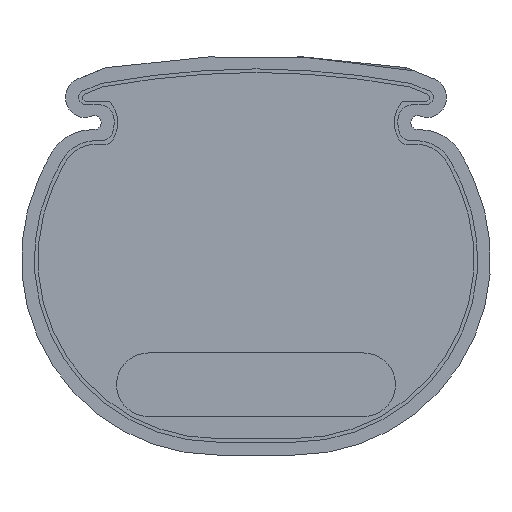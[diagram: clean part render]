
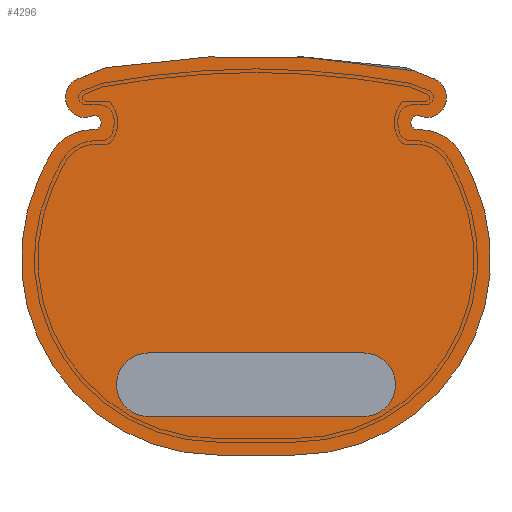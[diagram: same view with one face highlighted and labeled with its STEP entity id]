
A CAD part, left-side view. The second image highlights one B-rep face of the part: STEP entity #4296.
In plain terms, the highlighted planar face has unit normal (-1, 0, 0).
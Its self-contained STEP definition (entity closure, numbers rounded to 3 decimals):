
#155=FACE_BOUND('',#604,.T.);
#205=PLANE('',#4712);
#378=FACE_OUTER_BOUND('',#603,.T.);
#603=EDGE_LOOP('',(#3585,#3586,#3587,#3588,#3589,#3590,#3591,#3592,#3593,
#3594,#3595,#3596,#3597,#3598,#3599,#3600,#3601,#3602));
#604=EDGE_LOOP('',(#3603,#3604,#3605,#3606));
#846=CIRCLE('',#4602,4.422);
#884=CIRCLE('',#4650,4.422);
#885=CIRCLE('',#4654,51.838);
#886=CIRCLE('',#4656,27.3);
#887=CIRCLE('',#4659,27.3);
#888=CIRCLE('',#4661,51.838);
#889=CIRCLE('',#4663,7.3);
#890=CIRCLE('',#4665,2.8);
#902=CIRCLE('',#4694,1.);
#903=CIRCLE('',#4696,2.8);
#904=CIRCLE('',#4698,7.3);
#905=CIRCLE('',#4700,2.46);
#906=CIRCLE('',#4702,6.34);
#907=CIRCLE('',#4704,1.);
#908=CIRCLE('',#4706,2.46);
#909=CIRCLE('',#4708,6.34);
#910=CIRCLE('',#4710,125.078);
#1126=LINE('',#7366,#1407);
#1155=LINE('',#7503,#1436);
#1156=LINE('',#7510,#1437);
#1161=LINE('',#7524,#1442);
#1168=LINE('',#7549,#1449);
#1407=VECTOR('',#5408,10.);
#1436=VECTOR('',#5541,10.);
#1437=VECTOR('',#5544,10.);
#1442=VECTOR('',#5559,10.);
#1449=VECTOR('',#5584,10.);
#1819=VERTEX_POINT('',#7363);
#1820=VERTEX_POINT('',#7365);
#1822=VERTEX_POINT('',#7371);
#1876=VERTEX_POINT('',#7498);
#1877=VERTEX_POINT('',#7505);
#1878=VERTEX_POINT('',#7509);
#1879=VERTEX_POINT('',#7513);
#1880=VERTEX_POINT('',#7515);
#1881=VERTEX_POINT('',#7519);
#1882=VERTEX_POINT('',#7523);
#1883=VERTEX_POINT('',#7527);
#1884=VERTEX_POINT('',#7531);
#1885=VERTEX_POINT('',#7535);
#1886=VERTEX_POINT('',#7539);
#1887=VERTEX_POINT('',#7541);
#1888=VERTEX_POINT('',#7545);
#1901=VERTEX_POINT('',#7605);
#1902=VERTEX_POINT('',#7606);
#1903=VERTEX_POINT('',#7611);
#1904=VERTEX_POINT('',#7615);
#1905=VERTEX_POINT('',#7623);
#1906=VERTEX_POINT('',#7624);
#2375=EDGE_CURVE('',#1820,#1819,#1126,.T.);
#2379=EDGE_CURVE('',#1819,#1822,#846,.T.);
#2441=EDGE_CURVE('',#1876,#1820,#884,.T.);
#2444=EDGE_CURVE('',#1822,#1876,#1155,.T.);
#2446=EDGE_CURVE('',#1878,#1877,#1156,.T.);
#2449=EDGE_CURVE('',#1880,#1879,#885,.T.);
#2451=EDGE_CURVE('',#1881,#1880,#886,.T.);
#2453=EDGE_CURVE('',#1882,#1881,#1161,.T.);
#2455=EDGE_CURVE('',#1883,#1882,#887,.T.);
#2457=EDGE_CURVE('',#1884,#1883,#888,.T.);
#2460=EDGE_CURVE('',#1885,#1884,#889,.T.);
#2462=EDGE_CURVE('',#1887,#1886,#890,.T.);
#2465=EDGE_CURVE('',#1888,#1887,#1168,.T.);
#2493=EDGE_CURVE('',#1901,#1902,#902,.T.);
#2497=EDGE_CURVE('',#1903,#1878,#903,.T.);
#2499=EDGE_CURVE('',#1879,#1904,#904,.T.);
#2500=EDGE_CURVE('',#1902,#1903,#905,.T.);
#2501=EDGE_CURVE('',#1904,#1901,#906,.T.);
#2502=EDGE_CURVE('',#1905,#1906,#907,.T.);
#2505=EDGE_CURVE('',#1886,#1905,#908,.T.);
#2506=EDGE_CURVE('',#1906,#1885,#909,.T.);
#2507=EDGE_CURVE('',#1877,#1888,#910,.T.);
#3585=ORIENTED_EDGE('',*,*,#2507,.T.);
#3586=ORIENTED_EDGE('',*,*,#2465,.T.);
#3587=ORIENTED_EDGE('',*,*,#2462,.T.);
#3588=ORIENTED_EDGE('',*,*,#2505,.T.);
#3589=ORIENTED_EDGE('',*,*,#2502,.T.);
#3590=ORIENTED_EDGE('',*,*,#2506,.T.);
#3591=ORIENTED_EDGE('',*,*,#2460,.T.);
#3592=ORIENTED_EDGE('',*,*,#2457,.T.);
#3593=ORIENTED_EDGE('',*,*,#2455,.T.);
#3594=ORIENTED_EDGE('',*,*,#2453,.T.);
#3595=ORIENTED_EDGE('',*,*,#2451,.T.);
#3596=ORIENTED_EDGE('',*,*,#2449,.T.);
#3597=ORIENTED_EDGE('',*,*,#2499,.T.);
#3598=ORIENTED_EDGE('',*,*,#2501,.T.);
#3599=ORIENTED_EDGE('',*,*,#2493,.T.);
#3600=ORIENTED_EDGE('',*,*,#2500,.T.);
#3601=ORIENTED_EDGE('',*,*,#2497,.T.);
#3602=ORIENTED_EDGE('',*,*,#2446,.T.);
#3603=ORIENTED_EDGE('',*,*,#2444,.T.);
#3604=ORIENTED_EDGE('',*,*,#2441,.T.);
#3605=ORIENTED_EDGE('',*,*,#2375,.T.);
#3606=ORIENTED_EDGE('',*,*,#2379,.T.);
#4296=ADVANCED_FACE('',(#378,#155),#205,.F.);
#4602=AXIS2_PLACEMENT_3D('',#7373,#5415,#5416);
#4650=AXIS2_PLACEMENT_3D('',#7499,#5535,#5536);
#4654=AXIS2_PLACEMENT_3D('',#7516,#5549,#5550);
#4656=AXIS2_PLACEMENT_3D('',#7520,#5554,#5555);
#4659=AXIS2_PLACEMENT_3D('',#7528,#5563,#5564);
#4661=AXIS2_PLACEMENT_3D('',#7532,#5568,#5569);
#4663=AXIS2_PLACEMENT_3D('',#7537,#5574,#5575);
#4665=AXIS2_PLACEMENT_3D('',#7542,#5579,#5580);
#4694=AXIS2_PLACEMENT_3D('',#7607,#5655,#5656);
#4696=AXIS2_PLACEMENT_3D('',#7613,#5662,#5663);
#4698=AXIS2_PLACEMENT_3D('',#7617,#5667,#5668);
#4700=AXIS2_PLACEMENT_3D('',#7619,#5671,#5672);
#4702=AXIS2_PLACEMENT_3D('',#7621,#5675,#5676);
#4704=AXIS2_PLACEMENT_3D('',#7625,#5679,#5680);
#4706=AXIS2_PLACEMENT_3D('',#7629,#5685,#5686);
#4708=AXIS2_PLACEMENT_3D('',#7631,#5689,#5690);
#4710=AXIS2_PLACEMENT_3D('',#7633,#5693,#5694);
#4712=AXIS2_PLACEMENT_3D('',#7635,#5697,#5698);
#5408=DIRECTION('',(0.,-1.,0.));
#5415=DIRECTION('center_axis',(1.,0.,0.));
#5416=DIRECTION('ref_axis',(0.,0.,1.));
#5535=DIRECTION('center_axis',(1.,0.,0.));
#5536=DIRECTION('ref_axis',(0.,0.,-1.));
#5541=DIRECTION('',(0.,1.,0.));
#5544=DIRECTION('',(0.,0.927,0.375));
#5549=DIRECTION('center_axis',(-1.,0.,0.));
#5550=DIRECTION('ref_axis',(0.,-0.913,0.408));
#5554=DIRECTION('center_axis',(-1.,0.,0.));
#5555=DIRECTION('ref_axis',(0.,0.,-1.));
#5559=DIRECTION('',(0.,-1.,0.));
#5563=DIRECTION('center_axis',(-1.,0.,0.));
#5564=DIRECTION('ref_axis',(0.,0.913,0.408));
#5568=DIRECTION('center_axis',(-1.,0.,0.));
#5569=DIRECTION('ref_axis',(0.,0.882,0.472));
#5574=DIRECTION('center_axis',(-1.,0.,0.));
#5575=DIRECTION('ref_axis',(0.,0.,1.));
#5579=DIRECTION('center_axis',(-1.,0.,0.));
#5580=DIRECTION('ref_axis',(0.,0.375,0.927));
#5584=DIRECTION('',(0.,0.927,-0.375));
#5655=DIRECTION('center_axis',(1.,0.,0.));
#5656=DIRECTION('ref_axis',(0.,-0.052,-0.999));
#5662=DIRECTION('center_axis',(-1.,0.,0.));
#5663=DIRECTION('ref_axis',(0.,0.,-1.));
#5667=DIRECTION('center_axis',(-1.,0.,0.));
#5668=DIRECTION('ref_axis',(0.,-0.882,0.472));
#5671=DIRECTION('center_axis',(-1.,0.,0.));
#5672=DIRECTION('ref_axis',(0.,0.414,0.91));
#5675=DIRECTION('center_axis',(-1.,0.,0.));
#5676=DIRECTION('ref_axis',(0.,-0.052,-0.999));
#5679=DIRECTION('center_axis',(1.,0.,0.));
#5680=DIRECTION('ref_axis',(0.,0.052,-0.999));
#5685=DIRECTION('center_axis',(-1.,0.,0.));
#5686=DIRECTION('ref_axis',(0.,-0.414,0.91));
#5689=DIRECTION('center_axis',(-1.,0.,0.));
#5690=DIRECTION('ref_axis',(0.,0.052,-0.999));
#5693=DIRECTION('center_axis',(-1.,0.,0.));
#5694=DIRECTION('ref_axis',(0.,-0.182,0.983));
#5697=DIRECTION('center_axis',(1.,0.,0.));
#5698=DIRECTION('ref_axis',(0.,0.,-1.));
#7363=CARTESIAN_POINT('',(-624.328,-16.071,-13.578));
#7365=CARTESIAN_POINT('',(-624.328,13.929,-13.578));
#7366=CARTESIAN_POINT('',(-624.328,-8.571,-13.578));
#7371=CARTESIAN_POINT('',(-624.328,-16.071,-22.422));
#7373=CARTESIAN_POINT('Origin',(-624.328,-16.071,-18.));
#7498=CARTESIAN_POINT('',(-624.328,13.929,-22.422));
#7499=CARTESIAN_POINT('Origin',(-624.328,13.929,-18.));
#7503=CARTESIAN_POINT('',(-624.328,6.429,-22.422));
#7505=CARTESIAN_POINT('',(-624.328,-23.129,25.706));
#7509=CARTESIAN_POINT('',(-624.328,-25.87,24.599));
#7510=CARTESIAN_POINT('',(-624.328,-25.87,24.599));
#7513=CARTESIAN_POINT('',(-624.328,-29.755,13.945));
#7515=CARTESIAN_POINT('',(-624.328,-31.379,10.629));
#7516=CARTESIAN_POINT('Origin',(-624.328,15.958,-10.499));
#7519=CARTESIAN_POINT('',(-624.328,-6.449,-27.798));
#7520=CARTESIAN_POINT('Origin',(-624.328,-6.449,-0.498));
#7523=CARTESIAN_POINT('',(-624.328,4.307,-27.798));
#7524=CARTESIAN_POINT('',(-624.328,4.307,-27.798));
#7527=CARTESIAN_POINT('',(-624.328,29.237,10.629));
#7528=CARTESIAN_POINT('Origin',(-624.328,4.307,-0.498));
#7531=CARTESIAN_POINT('',(-624.328,27.613,13.945));
#7532=CARTESIAN_POINT('Origin',(-624.328,-18.1,-10.499));
#7535=CARTESIAN_POINT('',(-624.328,26.398,15.603));
#7537=CARTESIAN_POINT('Origin',(-624.328,21.176,10.502));
#7539=CARTESIAN_POINT('',(-624.328,23.838,19.453));
#7541=CARTESIAN_POINT('',(-624.328,23.728,24.599));
#7542=CARTESIAN_POINT('Origin',(-624.328,22.679,22.003));
#7545=CARTESIAN_POINT('',(-624.328,19.868,26.158));
#7549=CARTESIAN_POINT('',(-624.328,20.987,25.706));
#7605=CARTESIAN_POINT('',(-624.328,-23.674,17.504));
#7606=CARTESIAN_POINT('',(-624.328,-24.009,19.425));
#7607=CARTESIAN_POINT('Origin',(-624.328,-23.622,18.503));
#7611=CARTESIAN_POINT('',(-624.328,-25.98,19.453));
#7613=CARTESIAN_POINT('Origin',(-624.328,-24.821,22.003));
#7615=CARTESIAN_POINT('',(-624.328,-28.54,15.603));
#7617=CARTESIAN_POINT('Origin',(-624.328,-23.318,10.502));
#7619=CARTESIAN_POINT('Origin',(-624.328,-24.962,21.693));
#7621=CARTESIAN_POINT('Origin',(-624.328,-24.004,11.173));
#7623=CARTESIAN_POINT('',(-624.328,21.867,19.425));
#7624=CARTESIAN_POINT('',(-624.328,21.532,17.504));
#7625=CARTESIAN_POINT('Origin',(-624.328,21.48,18.503));
#7629=CARTESIAN_POINT('Origin',(-624.328,22.82,21.693));
#7631=CARTESIAN_POINT('Origin',(-624.328,21.862,11.173));
#7633=CARTESIAN_POINT('Origin',(-624.328,-0.335,-97.278));
#7635=CARTESIAN_POINT('Origin',(-624.328,-1.071,2.04));
